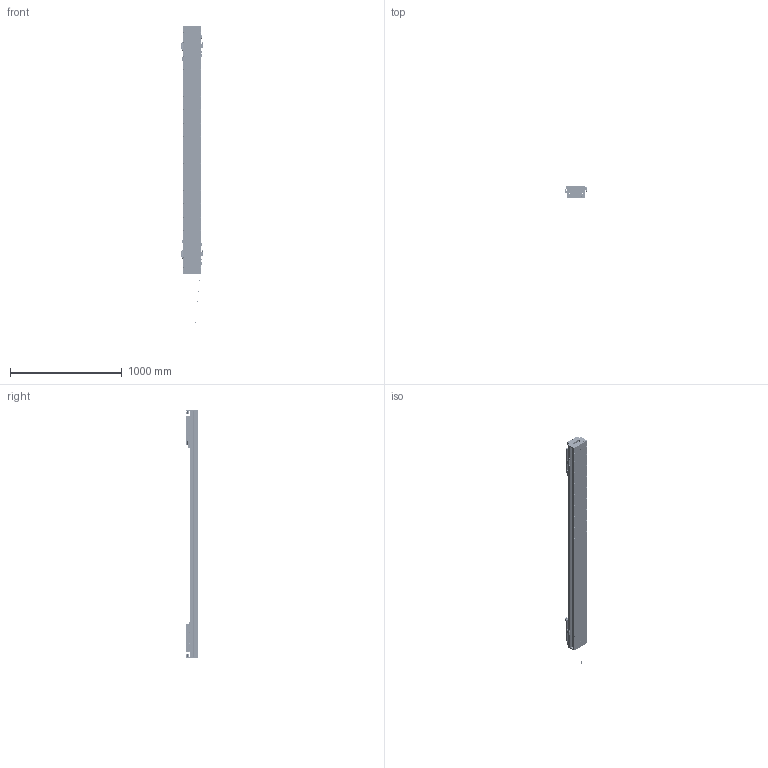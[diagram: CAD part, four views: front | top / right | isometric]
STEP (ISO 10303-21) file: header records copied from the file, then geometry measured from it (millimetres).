
FILE_DESCRIPTION (( 'STEP AP203' ), '1' );
FILE_NAME ('DKW168-2×C3-W090（T1580-L005-0.2）.STEP', '2022-03-08T05:53:45', ( '微软用户' ), ( '微软中国' ), 'SwSTEP 2.0', 'SolidWorks 2018', '' );
FILE_SCHEMA (( 'CONFIG_CONTROL_DESIGN' ));
Length unit declared in the file: millimetre
Products named in the file (28): DKW-GYP-ZJ-00 笢潔嫖萇覜茼え; RUS嫖掑喜; DKW168-HXJ-00 遣喳砎蝶; DKW168-C3-W090-HTB-04 C3-W090賑怢啣; DKW-KGZ-ZJ-00 中间光电开关支架; Ru2; 10392-0001-002-00 詩湍裔啣; MSB20S1FC; EE_SX674A; pm-y65; 10392-0001-003-00 詩湍嶺輸; CKM03-W090-C1C2-TP-0.2 珨极萇儂; DKW168-2×C3-W090（T1580-L005-0.2）; 10980-0001-003-00 嫖萇羲壽嘐隅釱; 10392-0001-004-00 詩湍揤輸; DKW168-HYB-00 賑輸揤啣; 嫖萇羲壽蚾饜极; 10279-0001-006-00 嶺輸菜輸; C3-W090; DKW-SG-GYP-H-00 嫖萇覜茼え; DKW168 单轴模组-拉钢带组件; 10392-0001-001-00 菁釱; 嫖萇羲壽蚾饜极A; CKM01-W090-TRL280; MSA20絳寢; DKW168-HXJ-ZJ-00 笢潔滅袉砎蝶; DKW168-RU-DTJ-00 RU2黍杅芛盓殤; 10279-0001-003-00 傷啣
Assembly tree (47 placements, depth 3):
  DKW168-2×C3-W090（T1580-L005-0.2）
    C3-W090  x2
      DKW168-C3-W090-HTB-04 C3-W090賑怢啣
      MSB20S1FC
      CKM03-W090-C1C2-TP-0.2 珨极萇儂
      DKW168-HYB-00 賑輸揤啣
    10392-0001-001-00 菁釱
    MSA20絳寢  x2
    DKW168 单轴模组-拉钢带组件
      10279-0001-003-00 傷啣  x2
      DKW168-HXJ-00 遣喳砎蝶  x4
      10392-0001-002-00 詩湍裔啣
      10392-0001-003-00 詩湍嶺輸  x2
      10392-0001-004-00 詩湍揤輸  x2
      10279-0001-006-00 嶺輸菜輸  x2
    CKM01-W090-TRL280
    DKW168-RU-DTJ-00 RU2黍杅芛盓殤  x2
    RUS嫖掑喜
    Ru2  x2
    嫖萇羲壽蚾饜极
      pm-y65  x2
      10980-0001-003-00 嫖萇羲壽嘐隅釱
    DKW-SG-GYP-H-00 嫖萇覜茼え  x2
    嫖萇羲壽蚾饜极A
      pm-y65  x2
      10980-0001-003-00 嫖萇羲壽嘐隅釱
    DKW168-HXJ-ZJ-00 笢潔滅袉砎蝶
    DKW-GYP-ZJ-00 笢潔嫖萇覜茼え
    DKW-KGZ-ZJ-00 中间光电开关支架
    EE_SX674A
Bounding box: 202.1 x 109 x 2970 mm (x, y, z)
Volume: 16301535.8 mm3; surface area: 4210694.1 mm2
Topology: 74 solids, 172 shells, 7866 faces, 20466 edges, 13027 vertices
Faces by surface type: plane 4100, cylinder 2292, cone 852, bspline 558, torus 32, sphere 32
Entity records: 126057 total; most frequent: CARTESIAN_POINT 41736, ORIENTED_EDGE 16869, DIRECTION 16150, EDGE_CURVE 8475, VERTEX_POINT 5526, AXIS2_PLACEMENT_3D 5489, LINE 5172, VECTOR 5172
